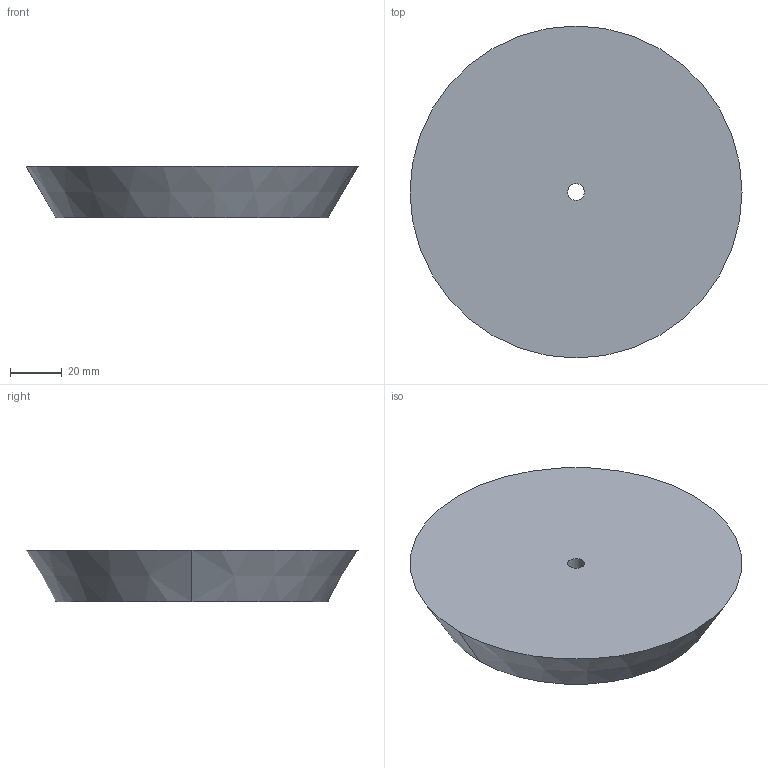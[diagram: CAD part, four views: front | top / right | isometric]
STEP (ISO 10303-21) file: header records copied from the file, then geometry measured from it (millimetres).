
FILE_DESCRIPTION(('CATIA V5 STEP Exchange'),'2;1');
FILE_NAME('C:\Users\andres.garcia\OneDrive - IQS\ASIGNATURAS\DAO\Controles\2223\c0\c1-FANLO_Alex-tapon.stp','2023-02-03T08:22:04+00:00',('none'),('none'),'CATIA Version 5-6 Release 2013 SP6','CATIA V5 STEP AP203','none');
FILE_SCHEMA(('CONFIG_CONTROL_DESIGN'));
Length unit declared in the file: millimetre
Products named in the file (1): c1-FANLO_Alex-tapon
Bounding box: 128 x 128 x 20 mm (x, y, z)
Volume: 213054.9 mm3; surface area: 30302.4 mm2
Topology: 1 solids, 1 shells, 6 faces, 12 edges, 8 vertices
Faces by surface type: cylinder 2, plane 2, cone 2
Entity records: 196 total; most frequent: CARTESIAN_POINT 26, ORIENTED_EDGE 24, DIRECTION 22, AXIS2_PLACEMENT_3D 14, EDGE_CURVE 12, CIRCLE 8, EDGE_LOOP 8, VERTEX_POINT 8
